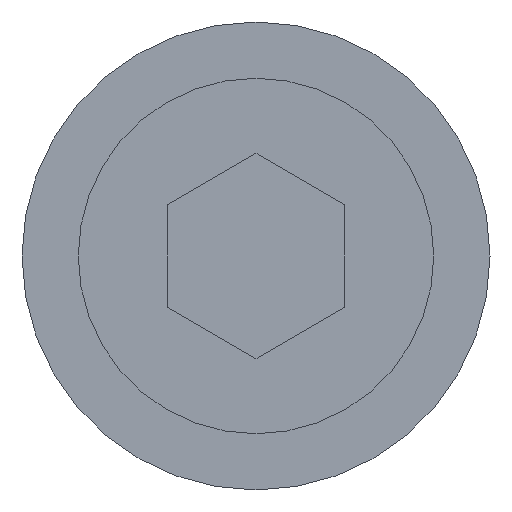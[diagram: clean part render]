
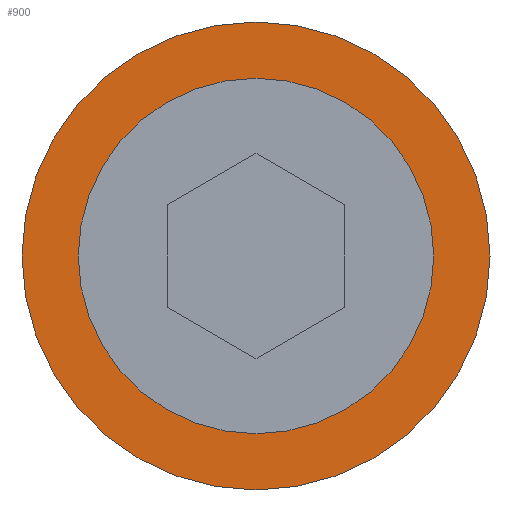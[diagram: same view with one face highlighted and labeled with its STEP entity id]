
A CAD part, left-side view. The second image highlights one B-rep face of the part: STEP entity #900.
In plain terms, the highlighted planar face has unit normal (-1, 0, 0).
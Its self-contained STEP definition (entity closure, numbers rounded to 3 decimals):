
#873=CARTESIAN_POINT('',(155.404,110.986,23.95));
#874=VERTEX_POINT('',#873);
#875=CARTESIAN_POINT('',(155.404,110.986,20.));
#876=DIRECTION('',(1.,0.,0.));
#877=DIRECTION('',(0.,0.,1.));
#878=AXIS2_PLACEMENT_3D('',#875,#876,#877);
#879=CIRCLE('',#878,3.95);
#880=EDGE_CURVE('',#874,#874,#879,.T.);
#881=ORIENTED_EDGE('',*,*,#880,.F.);
#882=EDGE_LOOP('',(#881));
#883=FACE_OUTER_BOUND('',#882,.T.);
#884=CARTESIAN_POINT('',(155.404,110.986,23.));
#885=VERTEX_POINT('',#884);
#886=CARTESIAN_POINT('',(155.404,110.986,20.));
#887=DIRECTION('',(1.,0.,0.));
#888=DIRECTION('',(0.,0.,1.));
#889=AXIS2_PLACEMENT_3D('',#886,#887,#888);
#890=CIRCLE('',#889,3.);
#891=EDGE_CURVE('',#885,#885,#890,.T.);
#892=ORIENTED_EDGE('',*,*,#891,.T.);
#893=EDGE_LOOP('',(#892));
#894=FACE_BOUND('',#893,.T.);
#895=CARTESIAN_POINT('',(155.404,110.986,21.975));
#896=DIRECTION('',(-1.,0.,0.));
#897=DIRECTION('',(0.,0.,-1.));
#898=AXIS2_PLACEMENT_3D('',#895,#896,#897);
#899=PLANE('',#898);
#900=ADVANCED_FACE('',(#883,#894),#899,.T.);
